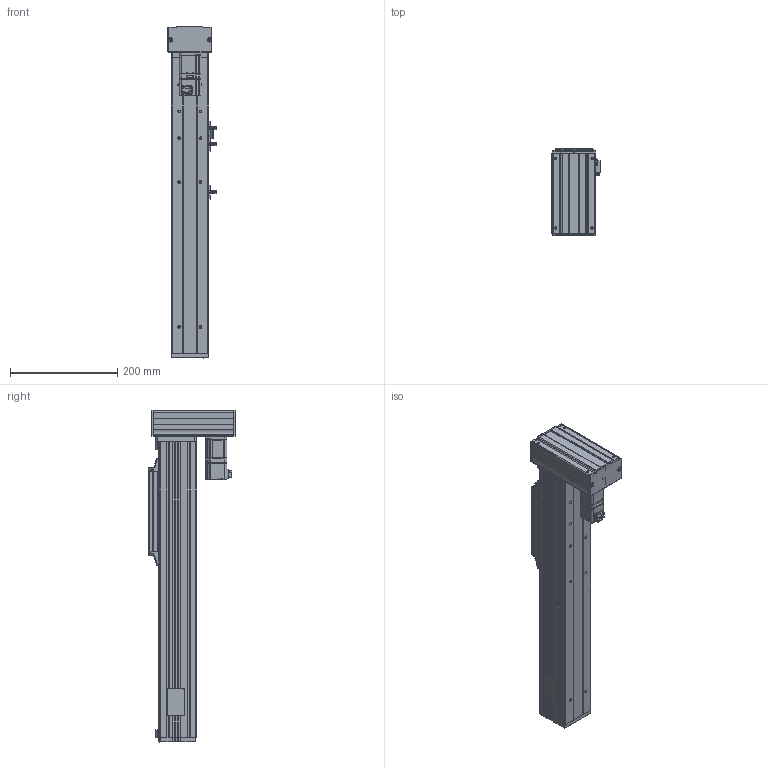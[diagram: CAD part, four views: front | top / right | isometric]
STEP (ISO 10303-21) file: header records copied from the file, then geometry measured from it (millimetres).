
FILE_DESCRIPTION(('Creo Elements/Direct Modeling STEP Export'),'2;1');
FILE_NAME('APCS070UON-ST300.stp','2022-02-18T10:38:25',(''),(''),'Creo Elements/Direct Modeling STEP processor for AP203 (Solid Model)','Creo Elements/Direct Modeling 19.0G 27-Nov-2017 (C) Parametric Technology GmbH','');
FILE_SCHEMA(('CONFIG_CONTROL_DESIGN'));
Length unit declared in the file: millimetre
Products named in the file (16): EE_SX672.1; APCS070-SENSORDOG; APCS70_SLIDER_END_COVER.1; 070_END_COVER_ANY; p1; p2; p3; APCS070_BASE_FRAME-382L; APCS070_END_PLATE; APCS070_Carrier; º´·Ä_MOTOR_END_COVER; sgmjv_01a_a21; º´·Ä_MOTOR_UPPER_COVER-100W; º´·Ä_MOTOR_BRACKET-100W; APCS070UON-1520-ST300-10NN00-N-I3R; APCS070UON-ST300
Assembly tree (19 placements, depth 4):
  APCS070UON-ST300
    APCS070UON-1520-ST300-10NN00-N-I3R
      º´·Ä_MOTOR_BRACKET-100W
      º´·Ä_MOTOR_END_COVER  x2
      º´·Ä_MOTOR_UPPER_COVER-100W
      sgmjv_01a_a21
      APCS070_Carrier
      APCS070_END_PLATE
      APCS070_BASE_FRAME-382L
        p3
        p2
        p1
      070_END_COVER_ANY
      APCS70_SLIDER_END_COVER.1  x2
      EE_SX672.1  x3
      APCS070-SENSORDOG
Bounding box: 89.7 x 163 x 620 mm (x, y, z)
Volume: 1890571.2 mm3; surface area: 600428.8 mm2
Topology: 17 solids, 17 shells, 2021 faces, 5563 edges, 3602 vertices
Faces by surface type: plane 1183, cylinder 624, cone 102, bspline 82, sphere 22, torus 8
Entity records: 58283 total; most frequent: CARTESIAN_POINT 16184, ORIENTED_EDGE 8766, DIRECTION 7825, EDGE_CURVE 4383, VECTOR 3011, LINE 3011, VERTEX_POINT 2879, AXIS2_PLACEMENT_3D 2407
